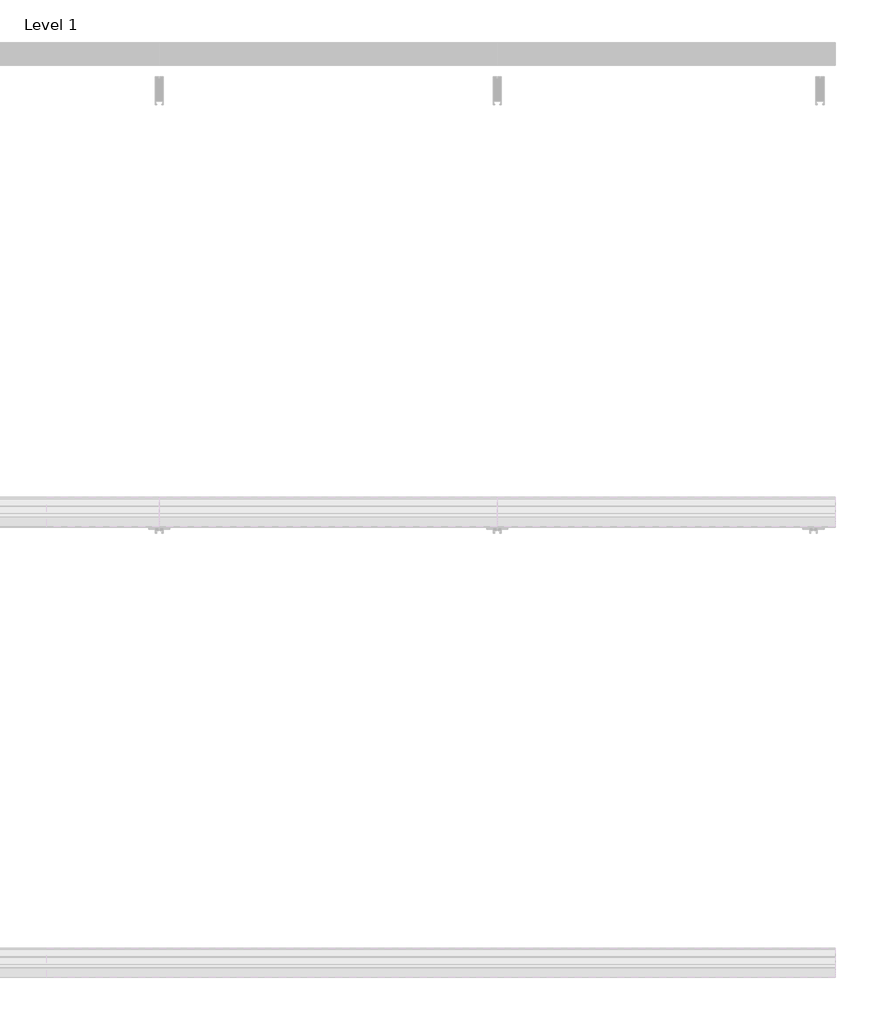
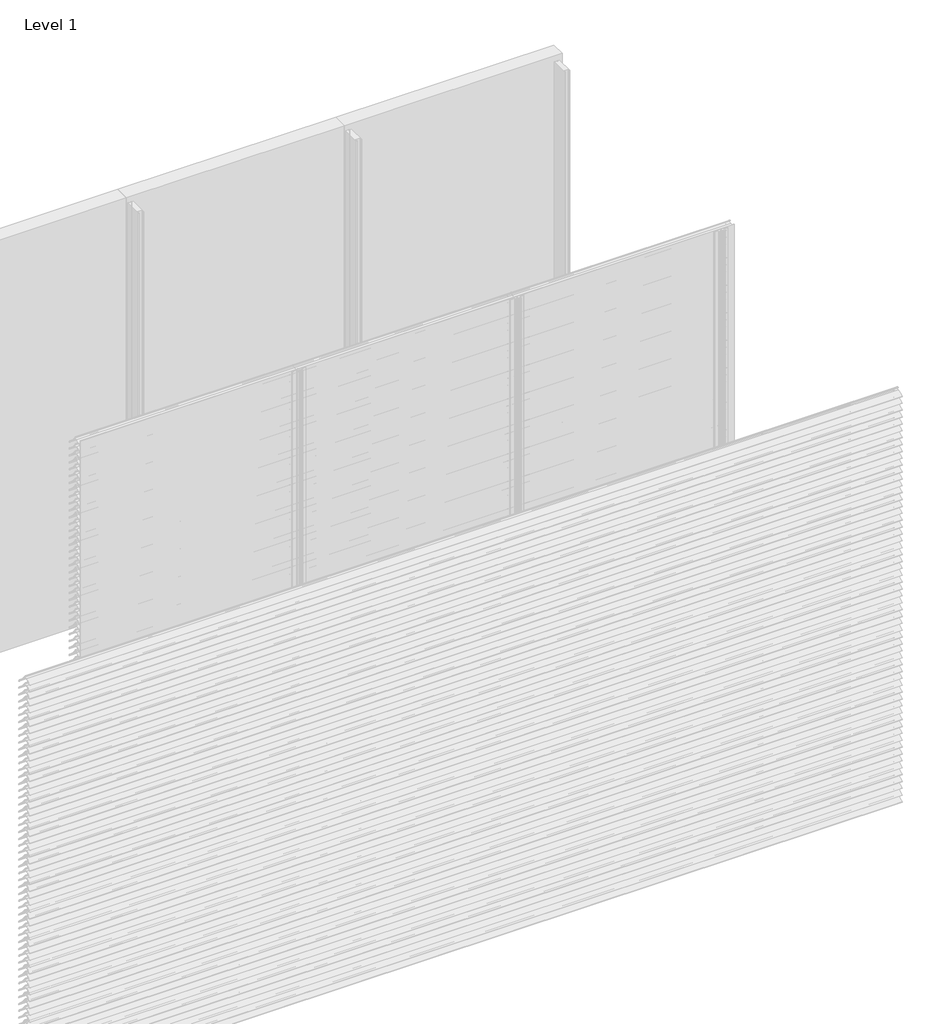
# One storey, part 19 of 173: 18 proxies.
"""IFC4 building model written with IfcOpenShell, lengths in millimetres."""

from ifc_helpers import new_model, si_unit, point, frame, frame_2d, origin, place, context, project, spatial, polyline, circle_curve, trimmed, segment, composite_curve, outline, extrude, element, save

model = new_model("IFC4")

# Units and contexts
model_context = context("Model", 3, world=origin())
ifc_project = project(units=[si_unit("LENGTHUNIT", "METRE", prefix="MILLI")], contexts=[model_context])

# Site, building, storey
site = spatial("IfcSite", under=ifc_project)
building = spatial("IfcBuilding", under=site)
storey = spatial("IfcBuildingStorey", under=building, Name="Level 1", Elevation=0.0)

# Proxies
placement = place(None, origin())
element("IfcBuildingElementProxy", 1, Name="Wall Sweeps", at=placement, inside=storey, context=model_context, shape_type="SweptSolid", body=[
    extrude(outline(composite_curve([segment(polyline([(-53998.0, 959.1474905), (-53998.0, 961.6227417)]), True, "CONTINUOUS"), segment(trimmed(circle_curve(frame_2d((-53951.2682172, 916.2200208)), 65.1557103), [point((-53998.0, 961.6227417))], [point((-53954.4014323, 981.3003524))], False, "CARTESIAN"), True, "CONTINUOUS"), segment(polyline([(-53954.4014323, 981.3003524), (-53934.8315836, 981.3003524)]), True, "CONTINUOUS"), segment(trimmed(circle_curve(frame_2d((-53732.7329489, 1128.5533172)), 250.0545817), [point((-53934.8315836, 981.3003524))], [point((-53941.4452143, 990.8344583))], False, "CARTESIAN"), True, "CONTINUOUS"), segment(trimmed(circle_curve(frame_2d((-53953.2981792, 985.1737835)), 13.1352966), [point((-53941.4452143, 990.8344583))], [point((-53953.8171475, 998.298824))], True, "CARTESIAN"), True, "CONTINUOUS"), segment(polyline([(-53953.8171475, 998.298824), (-53953.8171475, 1000.0)]), True, "CONTINUOUS"), segment(trimmed(circle_curve(frame_2d((-53953.2981792, 985.1737835)), 14.8352966), [point((-53953.8171475, 1000.0))], [point((-53939.9637661, 991.6760487))], False, "CARTESIAN"), True, "CONTINUOUS"), segment(trimmed(circle_curve(frame_2d((-53732.7329489, 1128.5533172)), 248.3545817), [point((-53939.9637661, 991.6760487))], [point((-53873.8787895, 924.2059416))], True, "CARTESIAN"), True, "CONTINUOUS"), segment(trimmed(circle_curve(frame_2d((-53883.8147537, 911.6649442)), 16.0), [point((-53873.8787895, 924.2059416))], [point((-53867.8648347, 910.4))], False, "CARTESIAN"), True, "CONTINUOUS"), segment(polyline([(-53867.8648347, 910.4), (-53869.6712069, 910.4)]), True, "CONTINUOUS"), segment(trimmed(circle_curve(frame_2d((-53883.8147537, 911.6649442)), 14.2), [point((-53869.6712069, 910.4))], [point((-53874.9518628, 922.7594998))], True, "CARTESIAN"), True, "CONTINUOUS"), segment(trimmed(circle_curve(frame_2d((-53732.7329489, 1128.5533172)), 250.1545817), [point((-53874.9518628, 922.7594998))], [point((-53933.7064024, 979.6003524))], False, "CARTESIAN"), True, "CONTINUOUS"), segment(polyline([(-53933.7064024, 979.6003524), (-53954.3602632, 979.6003524)]), True, "CONTINUOUS"), segment(trimmed(circle_curve(frame_2d((-53951.2682172, 916.2200208)), 63.4557103), [point((-53954.3602632, 979.6003524))], [point((-53998.0, 959.1474905))], True, "CARTESIAN"), True, "CONTINUOUS")], self_intersect=False)), frame((4500.0, 0.0, 0.0), z_axis=(1.0, 0.0, 0.0), x_axis=(0.0, 1.0, 0.0)), (0.0, 0.0, 1.0), 1500.0),
])
element("IfcBuildingElementProxy", 2, Name="Wall Sweeps", at=placement, inside=storey, context=model_context, shape_type="SweptSolid", body=[
    extrude(outline(composite_curve([segment(polyline([(-53998.0, 909.1474905), (-53998.0, 911.6227417)]), True, "CONTINUOUS"), segment(trimmed(circle_curve(frame_2d((-53951.2682172, 866.2200208)), 65.1557103), [point((-53998.0, 911.6227417))], [point((-53954.4014323, 931.3003524))], False, "CARTESIAN"), True, "CONTINUOUS"), segment(polyline([(-53954.4014323, 931.3003524), (-53934.8315836, 931.3003524)]), True, "CONTINUOUS"), segment(trimmed(circle_curve(frame_2d((-53732.7329489, 1078.5533172)), 250.0545817), [point((-53934.8315836, 931.3003524))], [point((-53941.4452143, 940.8344583))], False, "CARTESIAN"), True, "CONTINUOUS"), segment(trimmed(circle_curve(frame_2d((-53953.2981792, 935.1737835)), 13.1352966), [point((-53941.4452143, 940.8344583))], [point((-53953.8171475, 948.298824))], True, "CARTESIAN"), True, "CONTINUOUS"), segment(polyline([(-53953.8171475, 948.298824), (-53953.8171475, 950.0)]), True, "CONTINUOUS"), segment(trimmed(circle_curve(frame_2d((-53953.2981792, 935.1737835)), 14.8352966), [point((-53953.8171475, 950.0))], [point((-53939.9637661, 941.6760487))], False, "CARTESIAN"), True, "CONTINUOUS"), segment(trimmed(circle_curve(frame_2d((-53732.7329489, 1078.5533172)), 248.3545817), [point((-53939.9637661, 941.6760487))], [point((-53873.8787895, 874.2059416))], True, "CARTESIAN"), True, "CONTINUOUS"), segment(trimmed(circle_curve(frame_2d((-53883.8147537, 861.6649442)), 16.0), [point((-53873.8787895, 874.2059416))], [point((-53867.8648347, 860.4))], False, "CARTESIAN"), True, "CONTINUOUS"), segment(polyline([(-53867.8648347, 860.4), (-53869.6712069, 860.4)]), True, "CONTINUOUS"), segment(trimmed(circle_curve(frame_2d((-53883.8147537, 861.6649442)), 14.2), [point((-53869.6712069, 860.4))], [point((-53874.9518628, 872.7594998))], True, "CARTESIAN"), True, "CONTINUOUS"), segment(trimmed(circle_curve(frame_2d((-53732.7329489, 1078.5533172)), 250.1545817), [point((-53874.9518628, 872.7594998))], [point((-53933.7064024, 929.6003524))], False, "CARTESIAN"), True, "CONTINUOUS"), segment(polyline([(-53933.7064024, 929.6003524), (-53954.3602632, 929.6003524)]), True, "CONTINUOUS"), segment(trimmed(circle_curve(frame_2d((-53951.2682172, 866.2200208)), 63.4557103), [point((-53954.3602632, 929.6003524))], [point((-53998.0, 909.1474905))], True, "CARTESIAN"), True, "CONTINUOUS")], self_intersect=False)), frame((4500.0, 0.0, 0.0), z_axis=(1.0, 0.0, 0.0), x_axis=(0.0, 1.0, 0.0)), (0.0, 0.0, 1.0), 1500.0),
])
element("IfcBuildingElementProxy", 3, Name="Wall Sweeps", at=placement, inside=storey, context=model_context, shape_type="SweptSolid", body=[
    extrude(outline(composite_curve([segment(polyline([(-53998.0, 859.1474905), (-53998.0, 861.6227417)]), True, "CONTINUOUS"), segment(trimmed(circle_curve(frame_2d((-53951.2682172, 816.2200208)), 65.1557103), [point((-53998.0, 861.6227417))], [point((-53954.4014323, 881.3003524))], False, "CARTESIAN"), True, "CONTINUOUS"), segment(polyline([(-53954.4014323, 881.3003524), (-53934.8315836, 881.3003524)]), True, "CONTINUOUS"), segment(trimmed(circle_curve(frame_2d((-53732.7329489, 1028.5533172)), 250.0545817), [point((-53934.8315836, 881.3003524))], [point((-53941.4452143, 890.8344583))], False, "CARTESIAN"), True, "CONTINUOUS"), segment(trimmed(circle_curve(frame_2d((-53953.2981792, 885.1737835)), 13.1352966), [point((-53941.4452143, 890.8344583))], [point((-53953.8171475, 898.298824))], True, "CARTESIAN"), True, "CONTINUOUS"), segment(polyline([(-53953.8171475, 898.298824), (-53953.8171475, 900.0)]), True, "CONTINUOUS"), segment(trimmed(circle_curve(frame_2d((-53953.2981792, 885.1737835)), 14.8352966), [point((-53953.8171475, 900.0))], [point((-53939.9637661, 891.6760487))], False, "CARTESIAN"), True, "CONTINUOUS"), segment(trimmed(circle_curve(frame_2d((-53732.7329489, 1028.5533172)), 248.3545817), [point((-53939.9637661, 891.6760487))], [point((-53873.8787895, 824.2059416))], True, "CARTESIAN"), True, "CONTINUOUS"), segment(trimmed(circle_curve(frame_2d((-53883.8147537, 811.6649442)), 16.0), [point((-53873.8787895, 824.2059416))], [point((-53867.8648347, 810.4))], False, "CARTESIAN"), True, "CONTINUOUS"), segment(polyline([(-53867.8648347, 810.4), (-53869.6712069, 810.4)]), True, "CONTINUOUS"), segment(trimmed(circle_curve(frame_2d((-53883.8147537, 811.6649442)), 14.2), [point((-53869.6712069, 810.4))], [point((-53874.9518628, 822.7594998))], True, "CARTESIAN"), True, "CONTINUOUS"), segment(trimmed(circle_curve(frame_2d((-53732.7329489, 1028.5533172)), 250.1545817), [point((-53874.9518628, 822.7594998))], [point((-53933.7064024, 879.6003524))], False, "CARTESIAN"), True, "CONTINUOUS"), segment(polyline([(-53933.7064024, 879.6003524), (-53954.3602632, 879.6003524)]), True, "CONTINUOUS"), segment(trimmed(circle_curve(frame_2d((-53951.2682172, 816.2200208)), 63.4557103), [point((-53954.3602632, 879.6003524))], [point((-53998.0, 859.1474905))], True, "CARTESIAN"), True, "CONTINUOUS")], self_intersect=False)), frame((4500.0, 0.0, 0.0), z_axis=(1.0, 0.0, 0.0), x_axis=(0.0, 1.0, 0.0)), (0.0, 0.0, 1.0), 1500.0),
])
element("IfcBuildingElementProxy", 4, Name="Wall Sweeps", at=placement, inside=storey, context=model_context, shape_type="SweptSolid", body=[
    extrude(outline(composite_curve([segment(polyline([(-53998.0, 809.1474905), (-53998.0, 811.6227417)]), True, "CONTINUOUS"), segment(trimmed(circle_curve(frame_2d((-53951.2682172, 766.2200208)), 65.1557103), [point((-53998.0, 811.6227417))], [point((-53954.4014323, 831.3003524))], False, "CARTESIAN"), True, "CONTINUOUS"), segment(polyline([(-53954.4014323, 831.3003524), (-53934.8315836, 831.3003524)]), True, "CONTINUOUS"), segment(trimmed(circle_curve(frame_2d((-53732.7329489, 978.5533172)), 250.0545817), [point((-53934.8315836, 831.3003524))], [point((-53941.4452143, 840.8344583))], False, "CARTESIAN"), True, "CONTINUOUS"), segment(trimmed(circle_curve(frame_2d((-53953.2981792, 835.1737835)), 13.1352966), [point((-53941.4452143, 840.8344583))], [point((-53953.8171475, 848.298824))], True, "CARTESIAN"), True, "CONTINUOUS"), segment(polyline([(-53953.8171475, 848.298824), (-53953.8171475, 850.0)]), True, "CONTINUOUS"), segment(trimmed(circle_curve(frame_2d((-53953.2981792, 835.1737835)), 14.8352966), [point((-53953.8171475, 850.0))], [point((-53939.9637661, 841.6760487))], False, "CARTESIAN"), True, "CONTINUOUS"), segment(trimmed(circle_curve(frame_2d((-53732.7329489, 978.5533172)), 248.3545817), [point((-53939.9637661, 841.6760487))], [point((-53873.8787895, 774.2059416))], True, "CARTESIAN"), True, "CONTINUOUS"), segment(trimmed(circle_curve(frame_2d((-53883.8147537, 761.6649442)), 16.0), [point((-53873.8787895, 774.2059416))], [point((-53867.8648347, 760.4))], False, "CARTESIAN"), True, "CONTINUOUS"), segment(polyline([(-53867.8648347, 760.4), (-53869.6712069, 760.4)]), True, "CONTINUOUS"), segment(trimmed(circle_curve(frame_2d((-53883.8147537, 761.6649442)), 14.2), [point((-53869.6712069, 760.4))], [point((-53874.9518628, 772.7594998))], True, "CARTESIAN"), True, "CONTINUOUS"), segment(trimmed(circle_curve(frame_2d((-53732.7329489, 978.5533172)), 250.1545817), [point((-53874.9518628, 772.7594998))], [point((-53933.7064024, 829.6003524))], False, "CARTESIAN"), True, "CONTINUOUS"), segment(polyline([(-53933.7064024, 829.6003524), (-53954.3602632, 829.6003524)]), True, "CONTINUOUS"), segment(trimmed(circle_curve(frame_2d((-53951.2682172, 766.2200208)), 63.4557103), [point((-53954.3602632, 829.6003524))], [point((-53998.0, 809.1474905))], True, "CARTESIAN"), True, "CONTINUOUS")], self_intersect=False)), frame((4500.0, 0.0, 0.0), z_axis=(1.0, 0.0, 0.0), x_axis=(0.0, 1.0, 0.0)), (0.0, 0.0, 1.0), 1500.0),
])
element("IfcBuildingElementProxy", 5, Name="Wall Sweeps", at=placement, inside=storey, context=model_context, shape_type="SweptSolid", body=[
    extrude(outline(composite_curve([segment(polyline([(-53998.0, 759.1474905), (-53998.0, 761.6227417)]), True, "CONTINUOUS"), segment(trimmed(circle_curve(frame_2d((-53951.2682172, 716.2200208)), 65.1557103), [point((-53998.0, 761.6227417))], [point((-53954.4014323, 781.3003524))], False, "CARTESIAN"), True, "CONTINUOUS"), segment(polyline([(-53954.4014323, 781.3003524), (-53934.8315836, 781.3003524)]), True, "CONTINUOUS"), segment(trimmed(circle_curve(frame_2d((-53732.7329489, 928.5533172)), 250.0545817), [point((-53934.8315836, 781.3003524))], [point((-53941.4452143, 790.8344583))], False, "CARTESIAN"), True, "CONTINUOUS"), segment(trimmed(circle_curve(frame_2d((-53953.2981792, 785.1737835)), 13.1352966), [point((-53941.4452143, 790.8344583))], [point((-53953.8171475, 798.298824))], True, "CARTESIAN"), True, "CONTINUOUS"), segment(polyline([(-53953.8171475, 798.298824), (-53953.8171475, 800.0)]), True, "CONTINUOUS"), segment(trimmed(circle_curve(frame_2d((-53953.2981792, 785.1737835)), 14.8352966), [point((-53953.8171475, 800.0))], [point((-53939.9637661, 791.6760487))], False, "CARTESIAN"), True, "CONTINUOUS"), segment(trimmed(circle_curve(frame_2d((-53732.7329489, 928.5533172)), 248.3545817), [point((-53939.9637661, 791.6760487))], [point((-53873.8787895, 724.2059416))], True, "CARTESIAN"), True, "CONTINUOUS"), segment(trimmed(circle_curve(frame_2d((-53883.8147537, 711.6649442)), 16.0), [point((-53873.8787895, 724.2059416))], [point((-53867.8648347, 710.4))], False, "CARTESIAN"), True, "CONTINUOUS"), segment(polyline([(-53867.8648347, 710.4), (-53869.6712069, 710.4)]), True, "CONTINUOUS"), segment(trimmed(circle_curve(frame_2d((-53883.8147537, 711.6649442)), 14.2), [point((-53869.6712069, 710.4))], [point((-53874.9518628, 722.7594998))], True, "CARTESIAN"), True, "CONTINUOUS"), segment(trimmed(circle_curve(frame_2d((-53732.7329489, 928.5533172)), 250.1545817), [point((-53874.9518628, 722.7594998))], [point((-53933.7064024, 779.6003524))], False, "CARTESIAN"), True, "CONTINUOUS"), segment(polyline([(-53933.7064024, 779.6003524), (-53954.3602632, 779.6003524)]), True, "CONTINUOUS"), segment(trimmed(circle_curve(frame_2d((-53951.2682172, 716.2200208)), 63.4557103), [point((-53954.3602632, 779.6003524))], [point((-53998.0, 759.1474905))], True, "CARTESIAN"), True, "CONTINUOUS")], self_intersect=False)), frame((4500.0, 0.0, 0.0), z_axis=(1.0, 0.0, 0.0), x_axis=(0.0, 1.0, 0.0)), (0.0, 0.0, 1.0), 1500.0),
])
element("IfcBuildingElementProxy", 6, Name="Wall Sweeps", at=placement, inside=storey, context=model_context, shape_type="SweptSolid", body=[
    extrude(outline(composite_curve([segment(polyline([(-53998.0, 709.1474905), (-53998.0, 711.6227417)]), True, "CONTINUOUS"), segment(trimmed(circle_curve(frame_2d((-53951.2682172, 666.2200208)), 65.1557103), [point((-53998.0, 711.6227417))], [point((-53954.4014323, 731.3003524))], False, "CARTESIAN"), True, "CONTINUOUS"), segment(polyline([(-53954.4014323, 731.3003524), (-53934.8315836, 731.3003524)]), True, "CONTINUOUS"), segment(trimmed(circle_curve(frame_2d((-53732.7329489, 878.5533172)), 250.0545817), [point((-53934.8315836, 731.3003524))], [point((-53941.4452143, 740.8344583))], False, "CARTESIAN"), True, "CONTINUOUS"), segment(trimmed(circle_curve(frame_2d((-53953.2981792, 735.1737835)), 13.1352966), [point((-53941.4452143, 740.8344583))], [point((-53953.8171475, 748.298824))], True, "CARTESIAN"), True, "CONTINUOUS"), segment(polyline([(-53953.8171475, 748.298824), (-53953.8171475, 750.0)]), True, "CONTINUOUS"), segment(trimmed(circle_curve(frame_2d((-53953.2981792, 735.1737835)), 14.8352966), [point((-53953.8171475, 750.0))], [point((-53939.9637661, 741.6760487))], False, "CARTESIAN"), True, "CONTINUOUS"), segment(trimmed(circle_curve(frame_2d((-53732.7329489, 878.5533172)), 248.3545817), [point((-53939.9637661, 741.6760487))], [point((-53873.8787895, 674.2059416))], True, "CARTESIAN"), True, "CONTINUOUS"), segment(trimmed(circle_curve(frame_2d((-53883.8147537, 661.6649442)), 16.0), [point((-53873.8787895, 674.2059416))], [point((-53867.8648347, 660.4))], False, "CARTESIAN"), True, "CONTINUOUS"), segment(polyline([(-53867.8648347, 660.4), (-53869.6712069, 660.4)]), True, "CONTINUOUS"), segment(trimmed(circle_curve(frame_2d((-53883.8147537, 661.6649442)), 14.2), [point((-53869.6712069, 660.4))], [point((-53874.9518628, 672.7594998))], True, "CARTESIAN"), True, "CONTINUOUS"), segment(trimmed(circle_curve(frame_2d((-53732.7329489, 878.5533172)), 250.1545817), [point((-53874.9518628, 672.7594998))], [point((-53933.7064024, 729.6003524))], False, "CARTESIAN"), True, "CONTINUOUS"), segment(polyline([(-53933.7064024, 729.6003524), (-53954.3602632, 729.6003524)]), True, "CONTINUOUS"), segment(trimmed(circle_curve(frame_2d((-53951.2682172, 666.2200208)), 63.4557103), [point((-53954.3602632, 729.6003524))], [point((-53998.0, 709.1474905))], True, "CARTESIAN"), True, "CONTINUOUS")], self_intersect=False)), frame((4500.0, 0.0, 0.0), z_axis=(1.0, 0.0, 0.0), x_axis=(0.0, 1.0, 0.0)), (0.0, 0.0, 1.0), 1500.0),
])
element("IfcBuildingElementProxy", 7, Name="Wall Sweeps", at=placement, inside=storey, context=model_context, shape_type="SweptSolid", body=[
    extrude(outline(composite_curve([segment(polyline([(-53998.0, 659.1474905), (-53998.0, 661.6227417)]), True, "CONTINUOUS"), segment(trimmed(circle_curve(frame_2d((-53951.2682172, 616.2200208)), 65.1557103), [point((-53998.0, 661.6227417))], [point((-53954.4014323, 681.3003524))], False, "CARTESIAN"), True, "CONTINUOUS"), segment(polyline([(-53954.4014323, 681.3003524), (-53934.8315836, 681.3003524)]), True, "CONTINUOUS"), segment(trimmed(circle_curve(frame_2d((-53732.7329489, 828.5533172)), 250.0545817), [point((-53934.8315836, 681.3003524))], [point((-53941.4452143, 690.8344583))], False, "CARTESIAN"), True, "CONTINUOUS"), segment(trimmed(circle_curve(frame_2d((-53953.2981792, 685.1737835)), 13.1352966), [point((-53941.4452143, 690.8344583))], [point((-53953.8171475, 698.298824))], True, "CARTESIAN"), True, "CONTINUOUS"), segment(polyline([(-53953.8171475, 698.298824), (-53953.8171475, 700.0)]), True, "CONTINUOUS"), segment(trimmed(circle_curve(frame_2d((-53953.2981792, 685.1737835)), 14.8352966), [point((-53953.8171475, 700.0))], [point((-53939.9637661, 691.6760487))], False, "CARTESIAN"), True, "CONTINUOUS"), segment(trimmed(circle_curve(frame_2d((-53732.7329489, 828.5533172)), 248.3545817), [point((-53939.9637661, 691.6760487))], [point((-53873.8787895, 624.2059416))], True, "CARTESIAN"), True, "CONTINUOUS"), segment(trimmed(circle_curve(frame_2d((-53883.8147537, 611.6649442)), 16.0), [point((-53873.8787895, 624.2059416))], [point((-53867.8648347, 610.4))], False, "CARTESIAN"), True, "CONTINUOUS"), segment(polyline([(-53867.8648347, 610.4), (-53869.6712069, 610.4)]), True, "CONTINUOUS"), segment(trimmed(circle_curve(frame_2d((-53883.8147537, 611.6649442)), 14.2), [point((-53869.6712069, 610.4))], [point((-53874.9518628, 622.7594998))], True, "CARTESIAN"), True, "CONTINUOUS"), segment(trimmed(circle_curve(frame_2d((-53732.7329489, 828.5533172)), 250.1545817), [point((-53874.9518628, 622.7594998))], [point((-53933.7064024, 679.6003524))], False, "CARTESIAN"), True, "CONTINUOUS"), segment(polyline([(-53933.7064024, 679.6003524), (-53954.3602632, 679.6003524)]), True, "CONTINUOUS"), segment(trimmed(circle_curve(frame_2d((-53951.2682172, 616.2200208)), 63.4557103), [point((-53954.3602632, 679.6003524))], [point((-53998.0, 659.1474905))], True, "CARTESIAN"), True, "CONTINUOUS")], self_intersect=False)), frame((4500.0, 0.0, 0.0), z_axis=(1.0, 0.0, 0.0), x_axis=(0.0, 1.0, 0.0)), (0.0, 0.0, 1.0), 1500.0),
])
element("IfcBuildingElementProxy", 8, Name="Wall Sweeps", at=placement, inside=storey, context=model_context, shape_type="SweptSolid", body=[
    extrude(outline(composite_curve([segment(polyline([(-53998.0, 609.1474905), (-53998.0, 611.6227417)]), True, "CONTINUOUS"), segment(trimmed(circle_curve(frame_2d((-53951.2682172, 566.2200208)), 65.1557103), [point((-53998.0, 611.6227417))], [point((-53954.4014323, 631.3003524))], False, "CARTESIAN"), True, "CONTINUOUS"), segment(polyline([(-53954.4014323, 631.3003524), (-53934.8315836, 631.3003524)]), True, "CONTINUOUS"), segment(trimmed(circle_curve(frame_2d((-53732.7329489, 778.5533172)), 250.0545817), [point((-53934.8315836, 631.3003524))], [point((-53941.4452143, 640.8344583))], False, "CARTESIAN"), True, "CONTINUOUS"), segment(trimmed(circle_curve(frame_2d((-53953.2981792, 635.1737835)), 13.1352966), [point((-53941.4452143, 640.8344583))], [point((-53953.8171475, 648.298824))], True, "CARTESIAN"), True, "CONTINUOUS"), segment(polyline([(-53953.8171475, 648.298824), (-53953.8171475, 650.0)]), True, "CONTINUOUS"), segment(trimmed(circle_curve(frame_2d((-53953.2981792, 635.1737835)), 14.8352966), [point((-53953.8171475, 650.0))], [point((-53939.9637661, 641.6760487))], False, "CARTESIAN"), True, "CONTINUOUS"), segment(trimmed(circle_curve(frame_2d((-53732.7329489, 778.5533172)), 248.3545817), [point((-53939.9637661, 641.6760487))], [point((-53873.8787895, 574.2059416))], True, "CARTESIAN"), True, "CONTINUOUS"), segment(trimmed(circle_curve(frame_2d((-53883.8147537, 561.6649442)), 16.0), [point((-53873.8787895, 574.2059416))], [point((-53867.8648347, 560.4))], False, "CARTESIAN"), True, "CONTINUOUS"), segment(polyline([(-53867.8648347, 560.4), (-53869.6712069, 560.4)]), True, "CONTINUOUS"), segment(trimmed(circle_curve(frame_2d((-53883.8147537, 561.6649442)), 14.2), [point((-53869.6712069, 560.4))], [point((-53874.9518628, 572.7594998))], True, "CARTESIAN"), True, "CONTINUOUS"), segment(trimmed(circle_curve(frame_2d((-53732.7329489, 778.5533172)), 250.1545817), [point((-53874.9518628, 572.7594998))], [point((-53933.7064024, 629.6003524))], False, "CARTESIAN"), True, "CONTINUOUS"), segment(polyline([(-53933.7064024, 629.6003524), (-53954.3602632, 629.6003524)]), True, "CONTINUOUS"), segment(trimmed(circle_curve(frame_2d((-53951.2682172, 566.2200208)), 63.4557103), [point((-53954.3602632, 629.6003524))], [point((-53998.0, 609.1474905))], True, "CARTESIAN"), True, "CONTINUOUS")], self_intersect=False)), frame((4500.0, 0.0, 0.0), z_axis=(1.0, 0.0, 0.0), x_axis=(0.0, 1.0, 0.0)), (0.0, 0.0, 1.0), 1500.0),
])
element("IfcBuildingElementProxy", 9, Name="Wall Sweeps", at=placement, inside=storey, context=model_context, shape_type="SweptSolid", body=[
    extrude(outline(composite_curve([segment(polyline([(-53998.0, 559.1474905), (-53998.0, 561.6227417)]), True, "CONTINUOUS"), segment(trimmed(circle_curve(frame_2d((-53951.2682172, 516.2200208)), 65.1557103), [point((-53998.0, 561.6227417))], [point((-53954.4014323, 581.3003524))], False, "CARTESIAN"), True, "CONTINUOUS"), segment(polyline([(-53954.4014323, 581.3003524), (-53934.8315836, 581.3003524)]), True, "CONTINUOUS"), segment(trimmed(circle_curve(frame_2d((-53732.7329489, 728.5533172)), 250.0545817), [point((-53934.8315836, 581.3003524))], [point((-53941.4452143, 590.8344583))], False, "CARTESIAN"), True, "CONTINUOUS"), segment(trimmed(circle_curve(frame_2d((-53953.2981792, 585.1737835)), 13.1352966), [point((-53941.4452143, 590.8344583))], [point((-53953.8171475, 598.298824))], True, "CARTESIAN"), True, "CONTINUOUS"), segment(polyline([(-53953.8171475, 598.298824), (-53953.8171475, 600.0)]), True, "CONTINUOUS"), segment(trimmed(circle_curve(frame_2d((-53953.2981792, 585.1737835)), 14.8352966), [point((-53953.8171475, 600.0))], [point((-53939.9637661, 591.6760487))], False, "CARTESIAN"), True, "CONTINUOUS"), segment(trimmed(circle_curve(frame_2d((-53732.7329489, 728.5533172)), 248.3545817), [point((-53939.9637661, 591.6760487))], [point((-53873.8787895, 524.2059416))], True, "CARTESIAN"), True, "CONTINUOUS"), segment(trimmed(circle_curve(frame_2d((-53883.8147537, 511.6649442)), 16.0), [point((-53873.8787895, 524.2059416))], [point((-53867.8648347, 510.4))], False, "CARTESIAN"), True, "CONTINUOUS"), segment(polyline([(-53867.8648347, 510.4), (-53869.6712069, 510.4)]), True, "CONTINUOUS"), segment(trimmed(circle_curve(frame_2d((-53883.8147537, 511.6649442)), 14.2), [point((-53869.6712069, 510.4))], [point((-53874.9518628, 522.7594998))], True, "CARTESIAN"), True, "CONTINUOUS"), segment(trimmed(circle_curve(frame_2d((-53732.7329489, 728.5533172)), 250.1545817), [point((-53874.9518628, 522.7594998))], [point((-53933.7064024, 579.6003524))], False, "CARTESIAN"), True, "CONTINUOUS"), segment(polyline([(-53933.7064024, 579.6003524), (-53954.3602632, 579.6003524)]), True, "CONTINUOUS"), segment(trimmed(circle_curve(frame_2d((-53951.2682172, 516.2200208)), 63.4557103), [point((-53954.3602632, 579.6003524))], [point((-53998.0, 559.1474905))], True, "CARTESIAN"), True, "CONTINUOUS")], self_intersect=False)), frame((4500.0, 0.0, 0.0), z_axis=(1.0, 0.0, 0.0), x_axis=(0.0, 1.0, 0.0)), (0.0, 0.0, 1.0), 1500.0),
])
element("IfcBuildingElementProxy", 10, Name="Wall Sweeps", at=placement, inside=storey, context=model_context, shape_type="SweptSolid", body=[
    extrude(outline(composite_curve([segment(polyline([(-53998.0, 509.1474905), (-53998.0, 511.6227417)]), True, "CONTINUOUS"), segment(trimmed(circle_curve(frame_2d((-53951.2682172, 466.2200208)), 65.1557103), [point((-53998.0, 511.6227417))], [point((-53954.4014323, 531.3003524))], False, "CARTESIAN"), True, "CONTINUOUS"), segment(polyline([(-53954.4014323, 531.3003524), (-53934.8315836, 531.3003524)]), True, "CONTINUOUS"), segment(trimmed(circle_curve(frame_2d((-53732.7329489, 678.5533172)), 250.0545817), [point((-53934.8315836, 531.3003524))], [point((-53941.4452143, 540.8344583))], False, "CARTESIAN"), True, "CONTINUOUS"), segment(trimmed(circle_curve(frame_2d((-53953.2981792, 535.1737835)), 13.1352966), [point((-53941.4452143, 540.8344583))], [point((-53953.8171475, 548.298824))], True, "CARTESIAN"), True, "CONTINUOUS"), segment(polyline([(-53953.8171475, 548.298824), (-53953.8171475, 550.0)]), True, "CONTINUOUS"), segment(trimmed(circle_curve(frame_2d((-53953.2981792, 535.1737835)), 14.8352966), [point((-53953.8171475, 550.0))], [point((-53939.9637661, 541.6760487))], False, "CARTESIAN"), True, "CONTINUOUS"), segment(trimmed(circle_curve(frame_2d((-53732.7329489, 678.5533172)), 248.3545817), [point((-53939.9637661, 541.6760487))], [point((-53873.8787895, 474.2059416))], True, "CARTESIAN"), True, "CONTINUOUS"), segment(trimmed(circle_curve(frame_2d((-53883.8147537, 461.6649442)), 16.0), [point((-53873.8787895, 474.2059416))], [point((-53867.8648347, 460.4))], False, "CARTESIAN"), True, "CONTINUOUS"), segment(polyline([(-53867.8648347, 460.4), (-53869.6712069, 460.4)]), True, "CONTINUOUS"), segment(trimmed(circle_curve(frame_2d((-53883.8147537, 461.6649442)), 14.2), [point((-53869.6712069, 460.4))], [point((-53874.9518628, 472.7594998))], True, "CARTESIAN"), True, "CONTINUOUS"), segment(trimmed(circle_curve(frame_2d((-53732.7329489, 678.5533172)), 250.1545817), [point((-53874.9518628, 472.7594998))], [point((-53933.7064024, 529.6003524))], False, "CARTESIAN"), True, "CONTINUOUS"), segment(polyline([(-53933.7064024, 529.6003524), (-53954.3602632, 529.6003524)]), True, "CONTINUOUS"), segment(trimmed(circle_curve(frame_2d((-53951.2682172, 466.2200208)), 63.4557103), [point((-53954.3602632, 529.6003524))], [point((-53998.0, 509.1474905))], True, "CARTESIAN"), True, "CONTINUOUS")], self_intersect=False)), frame((4500.0, 0.0, 0.0), z_axis=(1.0, 0.0, 0.0), x_axis=(0.0, 1.0, 0.0)), (0.0, 0.0, 1.0), 1500.0),
])
element("IfcBuildingElementProxy", 11, Name="Wall Sweeps", at=placement, inside=storey, context=model_context, shape_type="SweptSolid", body=[
    extrude(outline(composite_curve([segment(polyline([(-53998.0, 459.1474905), (-53998.0, 461.6227417)]), True, "CONTINUOUS"), segment(trimmed(circle_curve(frame_2d((-53951.2682172, 416.2200208)), 65.1557103), [point((-53998.0, 461.6227417))], [point((-53954.4014323, 481.3003524))], False, "CARTESIAN"), True, "CONTINUOUS"), segment(polyline([(-53954.4014323, 481.3003524), (-53934.8315836, 481.3003524)]), True, "CONTINUOUS"), segment(trimmed(circle_curve(frame_2d((-53732.7329489, 628.5533172)), 250.0545817), [point((-53934.8315836, 481.3003524))], [point((-53941.4452143, 490.8344583))], False, "CARTESIAN"), True, "CONTINUOUS"), segment(trimmed(circle_curve(frame_2d((-53953.2981792, 485.1737835)), 13.1352966), [point((-53941.4452143, 490.8344583))], [point((-53953.8171475, 498.298824))], True, "CARTESIAN"), True, "CONTINUOUS"), segment(polyline([(-53953.8171475, 498.298824), (-53953.8171475, 500.0)]), True, "CONTINUOUS"), segment(trimmed(circle_curve(frame_2d((-53953.2981792, 485.1737835)), 14.8352966), [point((-53953.8171475, 500.0))], [point((-53939.9637661, 491.6760487))], False, "CARTESIAN"), True, "CONTINUOUS"), segment(trimmed(circle_curve(frame_2d((-53732.7329489, 628.5533172)), 248.3545817), [point((-53939.9637661, 491.6760487))], [point((-53873.8787895, 424.2059416))], True, "CARTESIAN"), True, "CONTINUOUS"), segment(trimmed(circle_curve(frame_2d((-53883.8147537, 411.6649442)), 16.0), [point((-53873.8787895, 424.2059416))], [point((-53867.8648347, 410.4))], False, "CARTESIAN"), True, "CONTINUOUS"), segment(polyline([(-53867.8648347, 410.4), (-53869.6712069, 410.4)]), True, "CONTINUOUS"), segment(trimmed(circle_curve(frame_2d((-53883.8147537, 411.6649442)), 14.2), [point((-53869.6712069, 410.4))], [point((-53874.9518628, 422.7594998))], True, "CARTESIAN"), True, "CONTINUOUS"), segment(trimmed(circle_curve(frame_2d((-53732.7329489, 628.5533172)), 250.1545817), [point((-53874.9518628, 422.7594998))], [point((-53933.7064024, 479.6003524))], False, "CARTESIAN"), True, "CONTINUOUS"), segment(polyline([(-53933.7064024, 479.6003524), (-53954.3602632, 479.6003524)]), True, "CONTINUOUS"), segment(trimmed(circle_curve(frame_2d((-53951.2682172, 416.2200208)), 63.4557103), [point((-53954.3602632, 479.6003524))], [point((-53998.0, 459.1474905))], True, "CARTESIAN"), True, "CONTINUOUS")], self_intersect=False)), frame((4500.0, 0.0, 0.0), z_axis=(1.0, 0.0, 0.0), x_axis=(0.0, 1.0, 0.0)), (0.0, 0.0, 1.0), 1500.0),
])
element("IfcBuildingElementProxy", 12, Name="Wall Sweeps", at=placement, inside=storey, context=model_context, shape_type="SweptSolid", body=[
    extrude(outline(composite_curve([segment(polyline([(-53998.0, 409.1474905), (-53998.0, 411.6227417)]), True, "CONTINUOUS"), segment(trimmed(circle_curve(frame_2d((-53951.2682172, 366.2200208)), 65.1557103), [point((-53998.0, 411.6227417))], [point((-53954.4014323, 431.3003524))], False, "CARTESIAN"), True, "CONTINUOUS"), segment(polyline([(-53954.4014323, 431.3003524), (-53934.8315836, 431.3003524)]), True, "CONTINUOUS"), segment(trimmed(circle_curve(frame_2d((-53732.7329489, 578.5533172)), 250.0545817), [point((-53934.8315836, 431.3003524))], [point((-53941.4452143, 440.8344583))], False, "CARTESIAN"), True, "CONTINUOUS"), segment(trimmed(circle_curve(frame_2d((-53953.2981792, 435.1737835)), 13.1352966), [point((-53941.4452143, 440.8344583))], [point((-53953.8171475, 448.298824))], True, "CARTESIAN"), True, "CONTINUOUS"), segment(polyline([(-53953.8171475, 448.298824), (-53953.8171475, 450.0)]), True, "CONTINUOUS"), segment(trimmed(circle_curve(frame_2d((-53953.2981792, 435.1737835)), 14.8352966), [point((-53953.8171475, 450.0))], [point((-53939.9637661, 441.6760487))], False, "CARTESIAN"), True, "CONTINUOUS"), segment(trimmed(circle_curve(frame_2d((-53732.7329489, 578.5533172)), 248.3545817), [point((-53939.9637661, 441.6760487))], [point((-53873.8787895, 374.2059416))], True, "CARTESIAN"), True, "CONTINUOUS"), segment(trimmed(circle_curve(frame_2d((-53883.8147537, 361.6649442)), 16.0), [point((-53873.8787895, 374.2059416))], [point((-53867.8648347, 360.4))], False, "CARTESIAN"), True, "CONTINUOUS"), segment(polyline([(-53867.8648347, 360.4), (-53869.6712069, 360.4)]), True, "CONTINUOUS"), segment(trimmed(circle_curve(frame_2d((-53883.8147537, 361.6649442)), 14.2), [point((-53869.6712069, 360.4))], [point((-53874.9518628, 372.7594998))], True, "CARTESIAN"), True, "CONTINUOUS"), segment(trimmed(circle_curve(frame_2d((-53732.7329489, 578.5533172)), 250.1545817), [point((-53874.9518628, 372.7594998))], [point((-53933.7064024, 429.6003524))], False, "CARTESIAN"), True, "CONTINUOUS"), segment(polyline([(-53933.7064024, 429.6003524), (-53954.3602632, 429.6003524)]), True, "CONTINUOUS"), segment(trimmed(circle_curve(frame_2d((-53951.2682172, 366.2200208)), 63.4557103), [point((-53954.3602632, 429.6003524))], [point((-53998.0, 409.1474905))], True, "CARTESIAN"), True, "CONTINUOUS")], self_intersect=False)), frame((4500.0, 0.0, 0.0), z_axis=(1.0, 0.0, 0.0), x_axis=(0.0, 1.0, 0.0)), (0.0, 0.0, 1.0), 1500.0),
])
element("IfcBuildingElementProxy", 13, Name="Wall Sweeps", at=placement, inside=storey, context=model_context, shape_type="SweptSolid", body=[
    extrude(outline(composite_curve([segment(polyline([(-53998.0, 359.1474905), (-53998.0, 361.6227417)]), True, "CONTINUOUS"), segment(trimmed(circle_curve(frame_2d((-53951.2682172, 316.2200208)), 65.1557103), [point((-53998.0, 361.6227417))], [point((-53954.4014323, 381.3003524))], False, "CARTESIAN"), True, "CONTINUOUS"), segment(polyline([(-53954.4014323, 381.3003524), (-53934.8315836, 381.3003524)]), True, "CONTINUOUS"), segment(trimmed(circle_curve(frame_2d((-53732.7329489, 528.5533172)), 250.0545817), [point((-53934.8315836, 381.3003524))], [point((-53941.4452143, 390.8344583))], False, "CARTESIAN"), True, "CONTINUOUS"), segment(trimmed(circle_curve(frame_2d((-53953.2981792, 385.1737835)), 13.1352966), [point((-53941.4452143, 390.8344583))], [point((-53953.8171475, 398.298824))], True, "CARTESIAN"), True, "CONTINUOUS"), segment(polyline([(-53953.8171475, 398.298824), (-53953.8171475, 400.0)]), True, "CONTINUOUS"), segment(trimmed(circle_curve(frame_2d((-53953.2981792, 385.1737835)), 14.8352966), [point((-53953.8171475, 400.0))], [point((-53939.9637661, 391.6760487))], False, "CARTESIAN"), True, "CONTINUOUS"), segment(trimmed(circle_curve(frame_2d((-53732.7329489, 528.5533172)), 248.3545817), [point((-53939.9637661, 391.6760487))], [point((-53873.8787895, 324.2059416))], True, "CARTESIAN"), True, "CONTINUOUS"), segment(trimmed(circle_curve(frame_2d((-53883.8147537, 311.6649442)), 16.0), [point((-53873.8787895, 324.2059416))], [point((-53867.8648347, 310.4))], False, "CARTESIAN"), True, "CONTINUOUS"), segment(polyline([(-53867.8648347, 310.4), (-53869.6712069, 310.4)]), True, "CONTINUOUS"), segment(trimmed(circle_curve(frame_2d((-53883.8147537, 311.6649442)), 14.2), [point((-53869.6712069, 310.4))], [point((-53874.9518628, 322.7594998))], True, "CARTESIAN"), True, "CONTINUOUS"), segment(trimmed(circle_curve(frame_2d((-53732.7329489, 528.5533172)), 250.1545817), [point((-53874.9518628, 322.7594998))], [point((-53933.7064024, 379.6003524))], False, "CARTESIAN"), True, "CONTINUOUS"), segment(polyline([(-53933.7064024, 379.6003524), (-53954.3602632, 379.6003524)]), True, "CONTINUOUS"), segment(trimmed(circle_curve(frame_2d((-53951.2682172, 316.2200208)), 63.4557103), [point((-53954.3602632, 379.6003524))], [point((-53998.0, 359.1474905))], True, "CARTESIAN"), True, "CONTINUOUS")], self_intersect=False)), frame((4500.0, 0.0, 0.0), z_axis=(1.0, 0.0, 0.0), x_axis=(0.0, 1.0, 0.0)), (0.0, 0.0, 1.0), 1500.0),
])
element("IfcBuildingElementProxy", 14, Name="Wall Sweeps", at=placement, inside=storey, context=model_context, shape_type="SweptSolid", body=[
    extrude(outline(composite_curve([segment(polyline([(-53998.0, 309.1474905), (-53998.0, 311.6227417)]), True, "CONTINUOUS"), segment(trimmed(circle_curve(frame_2d((-53951.2682172, 266.2200208)), 65.1557103), [point((-53998.0, 311.6227417))], [point((-53954.4014323, 331.3003524))], False, "CARTESIAN"), True, "CONTINUOUS"), segment(polyline([(-53954.4014323, 331.3003524), (-53934.8315836, 331.3003524)]), True, "CONTINUOUS"), segment(trimmed(circle_curve(frame_2d((-53732.7329489, 478.5533172)), 250.0545817), [point((-53934.8315836, 331.3003524))], [point((-53941.4452143, 340.8344583))], False, "CARTESIAN"), True, "CONTINUOUS"), segment(trimmed(circle_curve(frame_2d((-53953.2981792, 335.1737835)), 13.1352966), [point((-53941.4452143, 340.8344583))], [point((-53953.8171475, 348.298824))], True, "CARTESIAN"), True, "CONTINUOUS"), segment(polyline([(-53953.8171475, 348.298824), (-53953.8171475, 350.0)]), True, "CONTINUOUS"), segment(trimmed(circle_curve(frame_2d((-53953.2981792, 335.1737835)), 14.8352966), [point((-53953.8171475, 350.0))], [point((-53939.9637661, 341.6760487))], False, "CARTESIAN"), True, "CONTINUOUS"), segment(trimmed(circle_curve(frame_2d((-53732.7329489, 478.5533172)), 248.3545817), [point((-53939.9637661, 341.6760487))], [point((-53873.8787895, 274.2059416))], True, "CARTESIAN"), True, "CONTINUOUS"), segment(trimmed(circle_curve(frame_2d((-53883.8147537, 261.6649442)), 16.0), [point((-53873.8787895, 274.2059416))], [point((-53867.8648347, 260.4))], False, "CARTESIAN"), True, "CONTINUOUS"), segment(polyline([(-53867.8648347, 260.4), (-53869.6712069, 260.4)]), True, "CONTINUOUS"), segment(trimmed(circle_curve(frame_2d((-53883.8147537, 261.6649442)), 14.2), [point((-53869.6712069, 260.4))], [point((-53874.9518628, 272.7594998))], True, "CARTESIAN"), True, "CONTINUOUS"), segment(trimmed(circle_curve(frame_2d((-53732.7329489, 478.5533172)), 250.1545817), [point((-53874.9518628, 272.7594998))], [point((-53933.7064024, 329.6003524))], False, "CARTESIAN"), True, "CONTINUOUS"), segment(polyline([(-53933.7064024, 329.6003524), (-53954.3602632, 329.6003524)]), True, "CONTINUOUS"), segment(trimmed(circle_curve(frame_2d((-53951.2682172, 266.2200208)), 63.4557103), [point((-53954.3602632, 329.6003524))], [point((-53998.0, 309.1474905))], True, "CARTESIAN"), True, "CONTINUOUS")], self_intersect=False)), frame((4500.0, 0.0, 0.0), z_axis=(1.0, 0.0, 0.0), x_axis=(0.0, 1.0, 0.0)), (0.0, 0.0, 1.0), 1500.0),
])
element("IfcBuildingElementProxy", 15, Name="Wall Sweeps", at=placement, inside=storey, context=model_context, shape_type="SweptSolid", body=[
    extrude(outline(composite_curve([segment(polyline([(-53998.0, 259.1474905), (-53998.0, 261.6227417)]), True, "CONTINUOUS"), segment(trimmed(circle_curve(frame_2d((-53951.2682172, 216.2200208)), 65.1557103), [point((-53998.0, 261.6227417))], [point((-53954.4014323, 281.3003524))], False, "CARTESIAN"), True, "CONTINUOUS"), segment(polyline([(-53954.4014323, 281.3003524), (-53934.8315836, 281.3003524)]), True, "CONTINUOUS"), segment(trimmed(circle_curve(frame_2d((-53732.7329489, 428.5533172)), 250.0545817), [point((-53934.8315836, 281.3003524))], [point((-53941.4452143, 290.8344583))], False, "CARTESIAN"), True, "CONTINUOUS"), segment(trimmed(circle_curve(frame_2d((-53953.2981792, 285.1737835)), 13.1352966), [point((-53941.4452143, 290.8344583))], [point((-53953.8171475, 298.298824))], True, "CARTESIAN"), True, "CONTINUOUS"), segment(polyline([(-53953.8171475, 298.298824), (-53953.8171475, 300.0)]), True, "CONTINUOUS"), segment(trimmed(circle_curve(frame_2d((-53953.2981792, 285.1737835)), 14.8352966), [point((-53953.8171475, 300.0))], [point((-53939.9637661, 291.6760487))], False, "CARTESIAN"), True, "CONTINUOUS"), segment(trimmed(circle_curve(frame_2d((-53732.7329489, 428.5533172)), 248.3545817), [point((-53939.9637661, 291.6760487))], [point((-53873.8787895, 224.2059416))], True, "CARTESIAN"), True, "CONTINUOUS"), segment(trimmed(circle_curve(frame_2d((-53883.8147537, 211.6649442)), 16.0), [point((-53873.8787895, 224.2059416))], [point((-53867.8648347, 210.4))], False, "CARTESIAN"), True, "CONTINUOUS"), segment(polyline([(-53867.8648347, 210.4), (-53869.6712069, 210.4)]), True, "CONTINUOUS"), segment(trimmed(circle_curve(frame_2d((-53883.8147537, 211.6649442)), 14.2), [point((-53869.6712069, 210.4))], [point((-53874.9518628, 222.7594998))], True, "CARTESIAN"), True, "CONTINUOUS"), segment(trimmed(circle_curve(frame_2d((-53732.7329489, 428.5533172)), 250.1545817), [point((-53874.9518628, 222.7594998))], [point((-53933.7064024, 279.6003524))], False, "CARTESIAN"), True, "CONTINUOUS"), segment(polyline([(-53933.7064024, 279.6003524), (-53954.3602632, 279.6003524)]), True, "CONTINUOUS"), segment(trimmed(circle_curve(frame_2d((-53951.2682172, 216.2200208)), 63.4557103), [point((-53954.3602632, 279.6003524))], [point((-53998.0, 259.1474905))], True, "CARTESIAN"), True, "CONTINUOUS")], self_intersect=False)), frame((4500.0, 0.0, 0.0), z_axis=(1.0, 0.0, 0.0), x_axis=(0.0, 1.0, 0.0)), (0.0, 0.0, 1.0), 1500.0),
])
element("IfcBuildingElementProxy", 16, Name="Wall Sweeps", at=placement, inside=storey, context=model_context, shape_type="SweptSolid", body=[
    extrude(outline(composite_curve([segment(polyline([(-53998.0, 209.1474905), (-53998.0, 211.6227417)]), True, "CONTINUOUS"), segment(trimmed(circle_curve(frame_2d((-53951.2682172, 166.2200208)), 65.1557103), [point((-53998.0, 211.6227417))], [point((-53954.4014323, 231.3003524))], False, "CARTESIAN"), True, "CONTINUOUS"), segment(polyline([(-53954.4014323, 231.3003524), (-53934.8315836, 231.3003524)]), True, "CONTINUOUS"), segment(trimmed(circle_curve(frame_2d((-53732.7329489, 378.5533172)), 250.0545817), [point((-53934.8315836, 231.3003524))], [point((-53941.4452143, 240.8344583))], False, "CARTESIAN"), True, "CONTINUOUS"), segment(trimmed(circle_curve(frame_2d((-53953.2981792, 235.1737835)), 13.1352966), [point((-53941.4452143, 240.8344583))], [point((-53953.8171475, 248.298824))], True, "CARTESIAN"), True, "CONTINUOUS"), segment(polyline([(-53953.8171475, 248.298824), (-53953.8171475, 250.0)]), True, "CONTINUOUS"), segment(trimmed(circle_curve(frame_2d((-53953.2981792, 235.1737835)), 14.8352966), [point((-53953.8171475, 250.0))], [point((-53939.9637661, 241.6760487))], False, "CARTESIAN"), True, "CONTINUOUS"), segment(trimmed(circle_curve(frame_2d((-53732.7329489, 378.5533172)), 248.3545817), [point((-53939.9637661, 241.6760487))], [point((-53873.8787895, 174.2059416))], True, "CARTESIAN"), True, "CONTINUOUS"), segment(trimmed(circle_curve(frame_2d((-53883.8147537, 161.6649442)), 16.0), [point((-53873.8787895, 174.2059416))], [point((-53867.8648347, 160.4))], False, "CARTESIAN"), True, "CONTINUOUS"), segment(polyline([(-53867.8648347, 160.4), (-53869.6712069, 160.4)]), True, "CONTINUOUS"), segment(trimmed(circle_curve(frame_2d((-53883.8147537, 161.6649442)), 14.2), [point((-53869.6712069, 160.4))], [point((-53874.9518628, 172.7594998))], True, "CARTESIAN"), True, "CONTINUOUS"), segment(trimmed(circle_curve(frame_2d((-53732.7329489, 378.5533172)), 250.1545817), [point((-53874.9518628, 172.7594998))], [point((-53933.7064024, 229.6003524))], False, "CARTESIAN"), True, "CONTINUOUS"), segment(polyline([(-53933.7064024, 229.6003524), (-53954.3602632, 229.6003524)]), True, "CONTINUOUS"), segment(trimmed(circle_curve(frame_2d((-53951.2682172, 166.2200208)), 63.4557103), [point((-53954.3602632, 229.6003524))], [point((-53998.0, 209.1474905))], True, "CARTESIAN"), True, "CONTINUOUS")], self_intersect=False)), frame((4500.0, 0.0, 0.0), z_axis=(1.0, 0.0, 0.0), x_axis=(0.0, 1.0, 0.0)), (0.0, 0.0, 1.0), 1500.0),
])
element("IfcBuildingElementProxy", 17, Name="Wall Sweeps", at=placement, inside=storey, context=model_context, shape_type="SweptSolid", body=[
    extrude(outline(composite_curve([segment(polyline([(-53998.0, 159.1474905), (-53998.0, 161.6227417)]), True, "CONTINUOUS"), segment(trimmed(circle_curve(frame_2d((-53951.2682172, 116.2200208)), 65.1557103), [point((-53998.0, 161.6227417))], [point((-53954.4014323, 181.3003524))], False, "CARTESIAN"), True, "CONTINUOUS"), segment(polyline([(-53954.4014323, 181.3003524), (-53934.8315836, 181.3003524)]), True, "CONTINUOUS"), segment(trimmed(circle_curve(frame_2d((-53732.7329489, 328.5533172)), 250.0545817), [point((-53934.8315836, 181.3003524))], [point((-53941.4452143, 190.8344583))], False, "CARTESIAN"), True, "CONTINUOUS"), segment(trimmed(circle_curve(frame_2d((-53953.2981792, 185.1737835)), 13.1352966), [point((-53941.4452143, 190.8344583))], [point((-53953.8171475, 198.298824))], True, "CARTESIAN"), True, "CONTINUOUS"), segment(polyline([(-53953.8171475, 198.298824), (-53953.8171475, 200.0)]), True, "CONTINUOUS"), segment(trimmed(circle_curve(frame_2d((-53953.2981792, 185.1737835)), 14.8352966), [point((-53953.8171475, 200.0))], [point((-53939.9637661, 191.6760487))], False, "CARTESIAN"), True, "CONTINUOUS"), segment(trimmed(circle_curve(frame_2d((-53732.7329489, 328.5533172)), 248.3545817), [point((-53939.9637661, 191.6760487))], [point((-53873.8787895, 124.2059416))], True, "CARTESIAN"), True, "CONTINUOUS"), segment(trimmed(circle_curve(frame_2d((-53883.8147537, 111.6649442)), 16.0), [point((-53873.8787895, 124.2059416))], [point((-53867.8648347, 110.4))], False, "CARTESIAN"), True, "CONTINUOUS"), segment(polyline([(-53867.8648347, 110.4), (-53869.6712069, 110.4)]), True, "CONTINUOUS"), segment(trimmed(circle_curve(frame_2d((-53883.8147537, 111.6649442)), 14.2), [point((-53869.6712069, 110.4))], [point((-53874.9518628, 122.7594998))], True, "CARTESIAN"), True, "CONTINUOUS"), segment(trimmed(circle_curve(frame_2d((-53732.7329489, 328.5533172)), 250.1545817), [point((-53874.9518628, 122.7594998))], [point((-53933.7064024, 179.6003524))], False, "CARTESIAN"), True, "CONTINUOUS"), segment(polyline([(-53933.7064024, 179.6003524), (-53954.3602632, 179.6003524)]), True, "CONTINUOUS"), segment(trimmed(circle_curve(frame_2d((-53951.2682172, 116.2200208)), 63.4557103), [point((-53954.3602632, 179.6003524))], [point((-53998.0, 159.1474905))], True, "CARTESIAN"), True, "CONTINUOUS")], self_intersect=False)), frame((4500.0, 0.0, 0.0), z_axis=(1.0, 0.0, 0.0), x_axis=(0.0, 1.0, 0.0)), (0.0, 0.0, 1.0), 1500.0),
])
element("IfcBuildingElementProxy", 18, Name="Wall Sweeps", at=placement, inside=storey, context=model_context, shape_type="SweptSolid", body=[
    extrude(outline(composite_curve([segment(polyline([(-53998.0, 109.1474905), (-53998.0, 111.6227417)]), True, "CONTINUOUS"), segment(trimmed(circle_curve(frame_2d((-53951.2682172, 66.2200208)), 65.1557103), [point((-53998.0, 111.6227417))], [point((-53954.4014323, 131.3003524))], False, "CARTESIAN"), True, "CONTINUOUS"), segment(polyline([(-53954.4014323, 131.3003524), (-53934.8315836, 131.3003524)]), True, "CONTINUOUS"), segment(trimmed(circle_curve(frame_2d((-53732.7329489, 278.5533172)), 250.0545817), [point((-53934.8315836, 131.3003524))], [point((-53941.4452143, 140.8344583))], False, "CARTESIAN"), True, "CONTINUOUS"), segment(trimmed(circle_curve(frame_2d((-53953.2981792, 135.1737835)), 13.1352966), [point((-53941.4452143, 140.8344583))], [point((-53953.8171475, 148.298824))], True, "CARTESIAN"), True, "CONTINUOUS"), segment(polyline([(-53953.8171475, 148.298824), (-53953.8171475, 150.0)]), True, "CONTINUOUS"), segment(trimmed(circle_curve(frame_2d((-53953.2981792, 135.1737835)), 14.8352966), [point((-53953.8171475, 150.0))], [point((-53939.9637661, 141.6760487))], False, "CARTESIAN"), True, "CONTINUOUS"), segment(trimmed(circle_curve(frame_2d((-53732.7329489, 278.5533172)), 248.3545817), [point((-53939.9637661, 141.6760487))], [point((-53873.8787895, 74.2059416))], True, "CARTESIAN"), True, "CONTINUOUS"), segment(trimmed(circle_curve(frame_2d((-53883.8147537, 61.6649442)), 16.0), [point((-53873.8787895, 74.2059416))], [point((-53867.8648347, 60.4))], False, "CARTESIAN"), True, "CONTINUOUS"), segment(polyline([(-53867.8648347, 60.4), (-53869.6712069, 60.4)]), True, "CONTINUOUS"), segment(trimmed(circle_curve(frame_2d((-53883.8147537, 61.6649442)), 14.2), [point((-53869.6712069, 60.4))], [point((-53874.9518628, 72.7594998))], True, "CARTESIAN"), True, "CONTINUOUS"), segment(trimmed(circle_curve(frame_2d((-53732.7329489, 278.5533172)), 250.1545817), [point((-53874.9518628, 72.7594998))], [point((-53933.7064024, 129.6003524))], False, "CARTESIAN"), True, "CONTINUOUS"), segment(polyline([(-53933.7064024, 129.6003524), (-53954.3602632, 129.6003524)]), True, "CONTINUOUS"), segment(trimmed(circle_curve(frame_2d((-53951.2682172, 66.2200208)), 63.4557103), [point((-53954.3602632, 129.6003524))], [point((-53998.0, 109.1474905))], True, "CARTESIAN"), True, "CONTINUOUS")], self_intersect=False)), frame((4500.0, 0.0, 0.0), z_axis=(1.0, 0.0, 0.0), x_axis=(0.0, 1.0, 0.0)), (0.0, 0.0, 1.0), 1500.0),
])

save(model, "model.ifc")
